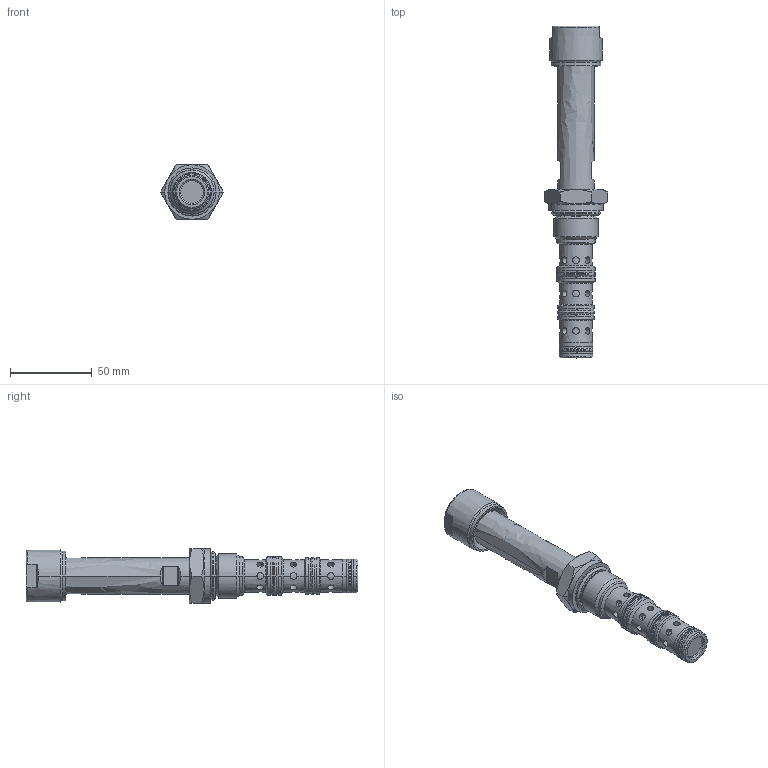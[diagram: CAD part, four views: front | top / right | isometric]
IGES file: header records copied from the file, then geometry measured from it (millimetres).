
Start section:  PTC IGES file: ESDV-12-4C-0--.igs
Global section: file name: ESDV-12-4C-0--.igs; native system: Creo Parametric by PTC Inc.; preprocessor: 2022281; author: salzmanm; organization: Unknown; date: 20241024.092327; units: millimetre
Bounding box: 38.48 x 202.67 x 33.32 mm (x, y, z)
Volume: 92511.5 mm3; surface area: 24538 mm2
Topology: 1 solids, 1 shells, 307 faces, 697 edges, 427 vertices
Faces by surface type: revolution 243, bspline 64
